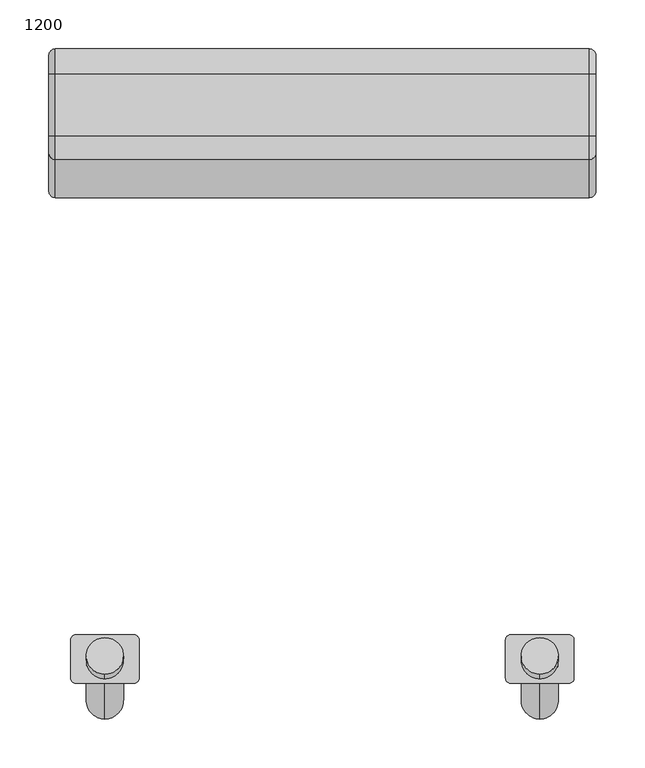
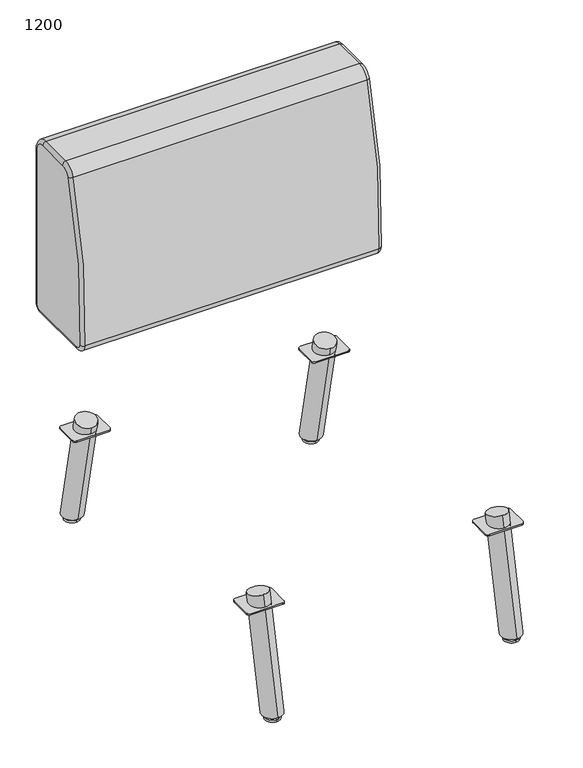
"""IFC4 building model written with IfcOpenShell, lengths in millimetres: furniture geometry, Laguna-Modular-Straight-ERG : 1200."""

import ifcopenshell
import ifcopenshell.guid

model = None  # the IFC model being written
_history = None  # IfcOwnerHistory: only IFC2X3 demands one
_inside = {}  # id of a spatial element -> (the spatial element, [elements in it])
_under = {}  # id of a project, library or spatial element -> (it, [spatial elements below it])
_declared = {}  # id of a project -> (the project, [libraries it declares])
_typed = {}  # id of a type object -> (the type object, [elements of that type])
_made_of = {}  # id of a material, layer set ... -> (it, [elements and type objects made of it])


def new_model(schema):
    """Start an empty IFC model of exactly this schema.

    Asked for "IFC4X3", IfcOpenShell would pick the latest addendum, in which some entities
    have other attributes; the version numbers below select the first issue.
    IFC2X3 requires an IfcOwnerHistory on every rooted entity: one is made here for all.
    """
    global model, _history
    if schema == "IFC4X3":
        model = ifcopenshell.file(schema_version=(4, 3, 0, 0))
    else:
        model = ifcopenshell.file(schema=schema)
    _inside.clear()
    _under.clear()
    _declared.clear()
    _typed.clear()
    _made_of.clear()
    _history = None
    if model.schema == "IFC2X3":
        org = make("IfcOrganization", Name="unknown")
        user = make(
            "IfcPersonAndOrganization",
            ThePerson=make("IfcPerson", FamilyName="unknown"),
            TheOrganization=org,
        )
        app = make(
            "IfcApplication",
            ApplicationDeveloper=org,
            Version="unknown",
            ApplicationFullName="unknown",
            ApplicationIdentifier="unknown",
        )
        _history = make(
            "IfcOwnerHistory",
            OwningUser=user,
            OwningApplication=app,
            ChangeAction="ADDED",
            CreationDate=0,
        )
    return model


def make(cls, **values):
    """One entity of the class cls with the attributes given. An attribute that is None is left unset."""
    return model.create_entity(
        cls, **{name: value for name, value in values.items() if value is not None}
    )


def rooted(cls, **values):
    """An entity with a GlobalId (a new one), such as an element, a storey or a relation."""
    return make(cls, GlobalId=ifcopenshell.guid.new(), OwnerHistory=_history, **values)


def si_unit(unit_type, name, prefix=None):
    """IfcSIUnit, for example si_unit("LENGTHUNIT", "METRE", prefix="MILLI")."""
    return make("IfcSIUnit", UnitType=unit_type, Prefix=prefix, Name=name)


def assignment(units):
    """IfcUnitAssignment: the units of a project."""
    return None if units is None else make("IfcUnitAssignment", Units=units)


def point(xyz):
    """IfcCartesianPoint."""
    return None if xyz is None else make("IfcCartesianPoint", Coordinates=xyz)


def direction(xyz):
    """IfcDirection."""
    return None if xyz is None else make("IfcDirection", DirectionRatios=xyz)


def frame(location, z_axis=None, x_axis=None):
    """IfcAxis2Placement3D, a coordinate frame: its origin and axes. An axis left out is left unset."""
    return make(
        "IfcAxis2Placement3D",
        Location=point(location),
        Axis=direction(z_axis),
        RefDirection=direction(x_axis),
    )


def frame_2d(location, x_axis=None):
    """IfcAxis2Placement2D, a coordinate frame in the plane: its origin and x axis."""
    return make(
        "IfcAxis2Placement2D", Location=point(location), RefDirection=direction(x_axis)
    )


def origin():
    """The frame at (0, 0, 0) with its axes left unset."""
    return frame((0.0, 0.0, 0.0))


def place(relative_to, where):
    """IfcLocalPlacement: puts the frame where relative to a parent placement (None: the world)."""
    return make(
        "IfcLocalPlacement", PlacementRelTo=relative_to, RelativePlacement=where
    )


def context(
    kind, dimensions, precision=None, world=None, true_north=None, identifier=None
):
    """IfcGeometricRepresentationContext, for example the 3D "Model" context."""
    return make(
        "IfcGeometricRepresentationContext",
        ContextIdentifier=identifier,
        ContextType=kind,
        CoordinateSpaceDimension=dimensions,
        Precision=precision,
        WorldCoordinateSystem=world,
        TrueNorth=true_north,
    )


def project(units=None, contexts=None):
    """IfcProject with its units and contexts."""
    return rooted(
        "IfcProject",
        Name="project",
        RepresentationContexts=contexts,
        UnitsInContext=assignment(units),
    )


def spatial(cls, under=None, at=None, **own):
    """A site, building, storey or space (cls), placed at a placement, below another one or the project."""
    s = rooted(cls, ObjectPlacement=at, **own)
    if under is not None:
        _under.setdefault(under.id(), (under, []))[1].append(s)
    return s


def polyline(points):
    """IfcPolyline through the points."""
    return make("IfcPolyline", Points=[point(p) for p in points])


def circle_curve(where, radius):
    """IfcCircle in the frame where."""
    return make("IfcCircle", Position=where, Radius=radius)


def ellipse_curve(where, semi_axis1, semi_axis2):
    """IfcEllipse in the frame where."""
    return make(
        "IfcEllipse", Position=where, SemiAxis1=semi_axis1, SemiAxis2=semi_axis2
    )


def trimmed(basis, trim1, trim2, sense, master):
    """IfcTrimmedCurve: the piece of a basis curve between two trims."""
    return make(
        "IfcTrimmedCurve",
        BasisCurve=basis,
        Trim1=trim1,
        Trim2=trim2,
        SenseAgreement=sense,
        MasterRepresentation=master,
    )


def segment(curve, same_sense, transition):
    """IfcCompositeCurveSegment."""
    return make(
        "IfcCompositeCurveSegment",
        Transition=transition,
        SameSense=same_sense,
        ParentCurve=curve,
    )


def composite_curve(segments, self_intersect=None):
    """IfcCompositeCurve: segments joined end to end."""
    return make("IfcCompositeCurve", Segments=segments, SelfIntersect=self_intersect)


def outline(outer, holes=None, kind="AREA"):
    """IfcArbitraryClosedProfileDef: a profile drawn as a closed curve; with holes, ...WithVoids."""
    if holes is None:
        return make("IfcArbitraryClosedProfileDef", ProfileType=kind, OuterCurve=outer)
    return make(
        "IfcArbitraryProfileDefWithVoids",
        ProfileType=kind,
        OuterCurve=outer,
        InnerCurves=holes,
    )


def extrude(swept, where, along, depth):
    """IfcExtrudedAreaSolid: the profile swept, set in the frame where, extruded along a direction by depth."""
    return make(
        "IfcExtrudedAreaSolid",
        SweptArea=swept,
        Position=where,
        ExtrudedDirection=direction(along),
        Depth=depth,
    )


def shape(context_of_items, identifier, shape_type, items):
    """IfcShapeRepresentation: the items that make up one representation, for example the "Body"."""
    return make(
        "IfcShapeRepresentation",
        ContextOfItems=context_of_items,
        RepresentationIdentifier=identifier,
        RepresentationType=shape_type,
        Items=items,
    )


def source(mapping_origin, context_of_items, identifier, shape_type, items):
    """IfcRepresentationMap: a shape defined once, which mapped items show again and again."""
    return make(
        "IfcRepresentationMap",
        MappingOrigin=mapping_origin,
        MappedRepresentation=shape(context_of_items, identifier, shape_type, items),
    )


def transform(
    local_origin,
    x_axis=None,
    y_axis=None,
    z_axis=None,
    scale=None,
    scale2=None,
    scale3=None,
    uniform=True,
):
    """IfcCartesianTransformationOperator3D, or its non-uniform kind. x_axis, y_axis, z_axis: its Axis1, 2, 3."""
    if uniform:
        return make(
            "IfcCartesianTransformationOperator3D",
            Axis1=direction(x_axis),
            Axis2=direction(y_axis),
            LocalOrigin=point(local_origin),
            Scale=scale,
            Axis3=direction(z_axis),
        )
    return make(
        "IfcCartesianTransformationOperator3DnonUniform",
        Axis1=direction(x_axis),
        Axis2=direction(y_axis),
        LocalOrigin=point(local_origin),
        Scale=scale,
        Axis3=direction(z_axis),
        Scale2=scale2,
        Scale3=scale3,
    )


def mapped(mapping_source, mapping_target):
    """IfcMappedItem: shows the shape of a source again, moved by a transform."""
    return make(
        "IfcMappedItem", MappingSource=mapping_source, MappingTarget=mapping_target
    )


def made_of(thing, what):
    """Note that an element or type object is made of a material, layer set ...; save() writes the relation."""
    if what is not None:
        _made_of.setdefault(what.id(), (what, []))[1].append(thing)
    return thing


def element(
    cls,
    number,
    at=None,
    inside=None,
    cuts=None,
    type_object=None,
    material=None,
    context=None,
    identifier="Body",
    shape_type=None,
    held_by="IfcProductDefinitionShape",
    body=None,
    shapes=None,
    **own,
):
    """One element of the class cls, such as IfcWall. Its Tag is "e" and its number.

    at: its placement. inside: the storey or other place that contains it. cuts: it is an
    opening in that element (IfcRelVoidsElement). A single representation is given by context,
    identifier, shape_type and body (its items); several are given by shapes. held_by: the class
    of the entity that holds the representations. save() writes the other relations.
    """
    e = rooted(cls, Tag="e%d" % number, ObjectPlacement=at, **own)
    if body is not None:
        shapes = [shape(context, identifier, shape_type, body)]
    if shapes is not None:
        e.Representation = make(held_by, Representations=shapes)
    if inside is not None:
        _inside.setdefault(inside.id(), (inside, []))[1].append(e)
    if cuts is not None:
        rooted(
            "IfcRelVoidsElement", RelatingBuildingElement=cuts, RelatedOpeningElement=e
        )
    if type_object is not None:
        _typed.setdefault(type_object.id(), (type_object, []))[1].append(e)
    return made_of(e, material)


def aggregate(whole, parts):
    """IfcRelAggregates: a whole, such as a stair, and the parts it consists of."""
    return rooted("IfcRelAggregates", RelatingObject=whole, RelatedObjects=parts)


def save(model, path):
    """Write the relations noted so far, then the file.

    IfcRelAggregates (storeys below a building ...), IfcRelContainedInSpatialStructure (elements
    in a storey), IfcRelDefinesByType, IfcRelAssociatesMaterial and IfcRelDeclares: one each for
    every whole, place, type object, material and project.
    """
    for whole, parts in _under.values():
        aggregate(whole, parts)
    for where, things in _inside.values():
        rooted(
            "IfcRelContainedInSpatialStructure",
            RelatedElements=things,
            RelatingStructure=where,
        )
    for kind, things in _typed.values():
        rooted("IfcRelDefinesByType", RelatedObjects=things, RelatingType=kind)
    for what, things in _made_of.values():
        rooted("IfcRelAssociatesMaterial", RelatedObjects=things, RelatingMaterial=what)
    for by, libraries in _declared.values():
        rooted("IfcRelDeclares", RelatingContext=by, RelatedDefinitions=libraries)
    model.write(path)


def plane_surface(at):
    """IfcPlane: the flat surface through the origin of the frame at, square to its z axis."""
    return make("IfcPlane", Position=at)


def cylinder_surface(at, radius):
    """IfcCylindricalSurface: all points at the distance radius from the z axis of the frame at."""
    return make("IfcCylindricalSurface", Position=at, Radius=radius)


def revolved_surface(curve, axis_point, axis_direction):
    """IfcSurfaceOfRevolution: the curve turned about the line through axis_point along axis_direction."""
    return make(
        "IfcSurfaceOfRevolution",
        SweptCurve=make("IfcArbitraryOpenProfileDef", ProfileType="CURVE", Curve=curve),
        AxisPosition=make("IfcAxis1Placement", Location=point(axis_point), Axis=direction(axis_direction)),
    )


def advanced_brep(points, edges, surfaces, faces):
    """IfcAdvancedBrep: a solid bounded by faces that lie on surfaces and meet in shared edges.

    An edge is (start, end): straight between two places in points (the first is 0);
    or (start, end, curve); or (start, end, curve, False) where it runs against its curve.
    A face is (place in surfaces, loops), or (place, loops, False) where it looks against
    its surface's normal. A loop lists edges by number (the first is 1), with a minus sign
    where the edge is run from its end to its start. The first loop is the outer one.
    """
    corners = [point(p) for p in points]
    vertices = [make("IfcVertexPoint", VertexGeometry=c) for c in corners]
    made = []
    for start, end, *more in edges:
        made.append(
            make(
                "IfcEdgeCurve",
                EdgeStart=vertices[start],
                EdgeEnd=vertices[end],
                EdgeGeometry=more[0] if more else make("IfcPolyline", Points=[corners[start], corners[end]]),
                SameSense=more[1] if len(more) > 1 else True,
            )
        )
    hull = []
    for where, loops, *sense in faces:
        bounds = []
        for j, loop in enumerate(loops):
            ring = [make("IfcOrientedEdge", EdgeElement=made[abs(k) - 1], Orientation=k > 0) for k in loop]
            bounds.append(
                make(
                    "IfcFaceOuterBound" if j == 0 else "IfcFaceBound",
                    Bound=make("IfcEdgeLoop", EdgeList=ring),
                    Orientation=True,
                )
            )
        hull.append(make("IfcAdvancedFace", Bounds=bounds, FaceSurface=surfaces[where], SameSense=sense[0] if sense else True))
    return make("IfcAdvancedBrep", Outer=make("IfcClosedShell", CfsFaces=hull))


def furniture_1200_4850fa3a(model_context):
    return source(origin(), model_context, "Body", "SolidModel", [
        advanced_brep(
        [(-4161.0921763, 1186.8836653, 224.8295715), (-4161.0921763, 1149.6162417, 216.9081361), (-4161.0921763, 1193.5619147, 10.16), (-4161.0921763, 1232.5130913, 10.16)],
        [
            (0, 1, circle_curve(frame((-4161.0921763, 1168.2499535, 220.8688538), z_axis=(0.0, -0.20791169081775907, 0.9781476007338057), x_axis=(0.0, -0.9781476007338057, -0.20791169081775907)), 19.05)),
            (1, 0, circle_curve(frame((-4161.0921763, 1168.2499535, 220.8688538), z_axis=(0.0, -0.20791169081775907, 0.9781476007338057), x_axis=(0.0, -0.9781476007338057, -0.20791169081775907)), 19.05)),
            (1, 2),
            (2, 3, ellipse_curve(frame((-4161.0921763, 1213.037503, 10.16), z_axis=(0.0, 0.0, 1.0), x_axis=(0.0, -1.0, 0.0)), 19.4755883, 19.05)),
            (3, 0),
            (3, 2, ellipse_curve(frame((-4161.0921763, 1213.037503, 10.16), z_axis=(0.0, 0.0, 1.0), x_axis=(0.0, -1.0, 0.0)), 19.4755883, 19.05)),
        ],
        [
            plane_surface(frame((-4161.0921763, 1168.2499535, 220.8688538), z_axis=(0.0, -0.20791169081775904, 0.9781476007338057), x_axis=(1.0, 0.0, 0.0))),
            cylinder_surface(frame((-4161.0921763, 1168.2499535, 220.8688538), z_axis=(0.0, -0.20791169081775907, 0.9781476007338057), x_axis=(0.0, -0.9781476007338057, -0.20791169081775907)), 19.05),
            plane_surface(frame((-4192.479084, 1280.9022773, 10.16), z_axis=(0.0, 0.0, -1.0), x_axis=(1.0, 0.0, 0.0))),
        ],
        [
            (0, [[1, 2]]),
            (1, [[3, 4, 5, -2]]),
            (1, [[-5, 6, -3, -1]]),
            (2, [[-6, -4]]),
        ],
    ),
        advanced_brep(
        [(-4605.5924306, 1186.8836653, 224.8295715), (-4605.5924306, 1149.6162417, 216.9081361), (-4605.5924306, 1193.5619147, 10.16), (-4605.5924306, 1232.5130913, 10.16)],
        [
            (0, 1, circle_curve(frame((-4605.5924306, 1168.2499535, 220.8688538), z_axis=(0.0, -0.20791169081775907, 0.9781476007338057), x_axis=(0.0, -0.9781476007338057, -0.20791169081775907)), 19.05)),
            (1, 0, circle_curve(frame((-4605.5924306, 1168.2499535, 220.8688538), z_axis=(0.0, -0.20791169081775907, 0.9781476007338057), x_axis=(0.0, -0.9781476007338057, -0.20791169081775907)), 19.05)),
            (1, 2),
            (2, 3, ellipse_curve(frame((-4605.5924306, 1213.037503, 10.16), z_axis=(0.0, 0.0, 1.0), x_axis=(0.0, -1.0, 0.0)), 19.4755883, 19.05)),
            (3, 0),
            (3, 2, ellipse_curve(frame((-4605.5924306, 1213.037503, 10.16), z_axis=(0.0, 0.0, 1.0), x_axis=(0.0, -1.0, 0.0)), 19.4755883, 19.05)),
        ],
        [
            plane_surface(frame((-4605.5924306, 1168.2499535, 220.8688538), z_axis=(0.0, -0.20791169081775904, 0.9781476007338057), x_axis=(1.0, 0.0, 0.0))),
            cylinder_surface(frame((-4605.5924306, 1168.2499535, 220.8688538), z_axis=(0.0, -0.20791169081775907, 0.9781476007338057), x_axis=(0.0, -0.9781476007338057, -0.20791169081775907)), 19.05),
            plane_surface(frame((-4636.9793383, 1280.9022773, 10.16), z_axis=(0.0, 0.0, -1.0), x_axis=(1.0, 0.0, 0.0))),
        ],
        [
            (0, [[1, 2]]),
            (1, [[3, 4, 5, -2]]),
            (1, [[-5, 6, -3, -1]]),
            (2, [[-6, -4]]),
        ],
    ),
        advanced_brep(
        [(-4161.0921763, 595.628035, 224.8295715), (-4161.0921763, 632.8954586, 216.9081361), (-4161.0921763, 549.998609, 10.16), (-4161.0921763, 588.9497857, 10.16)],
        [
            (0, 1, circle_curve(frame((-4161.0921763, 614.2617468, 220.8688538), z_axis=(0.0, 0.20791169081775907, 0.9781476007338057), x_axis=(0.0, 0.9781476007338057, -0.20791169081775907)), 19.05)),
            (1, 0, circle_curve(frame((-4161.0921763, 614.2617468, 220.8688538), z_axis=(0.0, 0.20791169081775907, 0.9781476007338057), x_axis=(0.0, 0.9781476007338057, -0.20791169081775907)), 19.05)),
            (0, 2),
            (2, 3, ellipse_curve(frame((-4161.0921763, 569.4741973, 10.16), z_axis=(0.0, 0.0, 1.0), x_axis=(0.0, 1.0, 0.0)), 19.4755883, 19.05)),
            (3, 1),
            (3, 2, ellipse_curve(frame((-4161.0921763, 569.4741973, 10.16), z_axis=(0.0, 0.0, 1.0), x_axis=(0.0, 1.0, 0.0)), 19.4755883, 19.05)),
        ],
        [
            plane_surface(frame((-4161.0921763, 614.2617468, 220.8688538), z_axis=(0.0, 0.20791169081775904, 0.9781476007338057), x_axis=(1.0, 0.0, 0.0))),
            cylinder_surface(frame((-4161.0921763, 614.2617468, 220.8688538), z_axis=(0.0, 0.20791169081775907, 0.9781476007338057), x_axis=(0.0, 0.9781476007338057, -0.20791169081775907)), 19.05),
            plane_surface(frame((-4192.479084, 501.6094231, 10.16), z_axis=(0.0, 0.0, -1.0), x_axis=(1.0, 0.0, 0.0))),
        ],
        [
            (0, [[1, 2]]),
            (1, [[-1, 3, 4, 5]]),
            (1, [[-2, -5, 6, -3]]),
            (2, [[-4, -6]]),
        ],
    ),
        advanced_brep(
        [(-4605.5924306, 595.628035, 224.8295715), (-4605.5924306, 632.8954586, 216.9081361), (-4605.5924306, 549.998609, 10.16), (-4605.5924306, 588.9497857, 10.16)],
        [
            (0, 1, circle_curve(frame((-4605.5924306, 614.2617468, 220.8688538), z_axis=(0.0, 0.20791169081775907, 0.9781476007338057), x_axis=(0.0, 0.9781476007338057, -0.20791169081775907)), 19.05)),
            (1, 0, circle_curve(frame((-4605.5924306, 614.2617468, 220.8688538), z_axis=(0.0, 0.20791169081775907, 0.9781476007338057), x_axis=(0.0, 0.9781476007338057, -0.20791169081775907)), 19.05)),
            (0, 2),
            (2, 3, ellipse_curve(frame((-4605.5924306, 569.4741973, 10.16), z_axis=(0.0, 0.0, 1.0), x_axis=(0.0, 1.0, 0.0)), 19.4755883, 19.05)),
            (3, 1),
            (3, 2, ellipse_curve(frame((-4605.5924306, 569.4741973, 10.16), z_axis=(0.0, 0.0, 1.0), x_axis=(0.0, 1.0, 0.0)), 19.4755883, 19.05)),
        ],
        [
            plane_surface(frame((-4605.5924306, 614.2617468, 220.8688538), z_axis=(0.0, 0.20791169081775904, 0.9781476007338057), x_axis=(1.0, 0.0, 0.0))),
            cylinder_surface(frame((-4605.5924306, 614.2617468, 220.8688538), z_axis=(0.0, 0.20791169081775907, 0.9781476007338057), x_axis=(0.0, 0.9781476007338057, -0.20791169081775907)), 19.05),
            plane_surface(frame((-4636.9793383, 501.6094231, 10.16), z_axis=(0.0, 0.0, -1.0), x_axis=(1.0, 0.0, 0.0))),
        ],
        [
            (0, [[1, 2]]),
            (1, [[-1, 3, 4, 5]]),
            (1, [[-2, -5, 6, -3]]),
            (2, [[-4, -6]]),
        ],
    ),
        extrude(outline(composite_curve([segment(polyline([(-4575.7474306, 586.4558502), (-4635.4374306, 586.4558502)]), True, "CONTINUOUS"), segment(trimmed(circle_curve(frame_2d((-4635.4374306, 591.5358502)), 5.08), [point((-4635.4374306, 586.4558502))], [point((-4640.5174306, 591.5358502))], False, "CARTESIAN"), True, "CONTINUOUS"), segment(polyline([(-4640.5174306, 591.5358502), (-4640.5174306, 630.9058502)]), True, "CONTINUOUS"), segment(trimmed(circle_curve(frame_2d((-4635.4374306, 630.9058502)), 5.08), [point((-4640.5174306, 630.9058502))], [point((-4635.4374306, 635.9858502))], False, "CARTESIAN"), True, "CONTINUOUS"), segment(polyline([(-4635.4374306, 635.9858502), (-4575.7474306, 635.9858502)]), True, "CONTINUOUS"), segment(trimmed(circle_curve(frame_2d((-4575.7474306, 630.9058502)), 5.08), [point((-4575.7474306, 635.9858502))], [point((-4570.6674306, 630.9058502))], False, "CARTESIAN"), True, "CONTINUOUS"), segment(polyline([(-4570.6674306, 630.9058502), (-4570.6674306, 591.5358502)]), True, "CONTINUOUS"), segment(trimmed(circle_curve(frame_2d((-4575.7474306, 591.5358502)), 5.08), [point((-4570.6674306, 591.5358502))], [point((-4575.7474306, 586.4558502))], False, "CARTESIAN"), True, "CONTINUOUS")], self_intersect=False)), frame((0.0, 0.0, 200.66), z_axis=(0.0, 0.0, 1.0), x_axis=(1.0, 0.0, 0.0)), (0.0, 0.0, 1.0), 2.54),
        extrude(outline(composite_curve([segment(trimmed(circle_curve(frame_2d((-4575.7474306, 1190.9758502)), 5.08), [point((-4575.7474306, 1196.0558502))], [point((-4570.6674306, 1190.9758502))], False, "CARTESIAN"), True, "CONTINUOUS"), segment(polyline([(-4570.6674306, 1190.9758502), (-4570.6674306, 1151.6058502)]), True, "CONTINUOUS"), segment(trimmed(circle_curve(frame_2d((-4575.7474306, 1151.6058502)), 5.08), [point((-4570.6674306, 1151.6058502))], [point((-4575.7474306, 1146.5258502))], False, "CARTESIAN"), True, "CONTINUOUS"), segment(polyline([(-4575.7474306, 1146.5258502), (-4635.4374306, 1146.5258502)]), True, "CONTINUOUS"), segment(trimmed(circle_curve(frame_2d((-4635.4374306, 1151.6058502)), 5.08), [point((-4635.4374306, 1146.5258502))], [point((-4640.5174306, 1151.6058502))], False, "CARTESIAN"), True, "CONTINUOUS"), segment(polyline([(-4640.5174306, 1151.6058502), (-4640.5174306, 1190.9758502)]), True, "CONTINUOUS"), segment(trimmed(circle_curve(frame_2d((-4635.4374306, 1190.9758502)), 5.08), [point((-4640.5174306, 1190.9758502))], [point((-4635.4374306, 1196.0558502))], False, "CARTESIAN"), True, "CONTINUOUS"), segment(polyline([(-4635.4374306, 1196.0558502), (-4575.7474306, 1196.0558502)]), True, "CONTINUOUS")], self_intersect=False)), frame((0.0, 0.0, 200.66), z_axis=(0.0, 0.0, 1.0), x_axis=(1.0, 0.0, 0.0)), (0.0, 0.0, 1.0), 2.54),
        extrude(outline(composite_curve([segment(trimmed(circle_curve(frame_2d((-4190.936922, 591.5358502)), 5.08), [point((-4190.936922, 586.4558502))], [point((-4196.016922, 591.5358502))], False, "CARTESIAN"), True, "CONTINUOUS"), segment(polyline([(-4196.016922, 591.5358502), (-4196.016922, 630.9058502)]), True, "CONTINUOUS"), segment(trimmed(circle_curve(frame_2d((-4190.936922, 630.9058502)), 5.08), [point((-4196.016922, 630.9058502))], [point((-4190.936922, 635.9858502))], False, "CARTESIAN"), True, "CONTINUOUS"), segment(polyline([(-4190.936922, 635.9858502), (-4131.246922, 635.9858502)]), True, "CONTINUOUS"), segment(trimmed(circle_curve(frame_2d((-4131.246922, 630.9058502)), 5.08), [point((-4131.246922, 635.9858502))], [point((-4126.166922, 630.9058502))], False, "CARTESIAN"), True, "CONTINUOUS"), segment(polyline([(-4126.166922, 630.9058502), (-4126.166922, 591.5358502)]), True, "CONTINUOUS"), segment(trimmed(circle_curve(frame_2d((-4131.246922, 591.5358502)), 5.08), [point((-4126.166922, 591.5358502))], [point((-4131.246922, 586.4558502))], False, "CARTESIAN"), True, "CONTINUOUS"), segment(polyline([(-4131.246922, 586.4558502), (-4190.936922, 586.4558502)]), True, "CONTINUOUS")], self_intersect=False)), frame((0.0, 0.0, 200.66), z_axis=(0.0, 0.0, 1.0), x_axis=(1.0, 0.0, 0.0)), (0.0, 0.0, 1.0), 2.54),
        extrude(outline(composite_curve([segment(polyline([(-4190.936922, 1196.0558502), (-4131.246922, 1196.0558502)]), True, "CONTINUOUS"), segment(trimmed(circle_curve(frame_2d((-4131.246922, 1190.9758502)), 5.08), [point((-4131.246922, 1196.0558502))], [point((-4126.166922, 1190.9758502))], False, "CARTESIAN"), True, "CONTINUOUS"), segment(polyline([(-4126.166922, 1190.9758502), (-4126.166922, 1151.6058502)]), True, "CONTINUOUS"), segment(trimmed(circle_curve(frame_2d((-4131.246922, 1151.6058502)), 5.08), [point((-4126.166922, 1151.6058502))], [point((-4131.246922, 1146.5258502))], False, "CARTESIAN"), True, "CONTINUOUS"), segment(polyline([(-4131.246922, 1146.5258502), (-4190.936922, 1146.5258502)]), True, "CONTINUOUS"), segment(trimmed(circle_curve(frame_2d((-4190.936922, 1151.6058502)), 5.08), [point((-4190.936922, 1146.5258502))], [point((-4196.016922, 1151.6058502))], False, "CARTESIAN"), True, "CONTINUOUS"), segment(polyline([(-4196.016922, 1151.6058502), (-4196.016922, 1190.9758502)]), True, "CONTINUOUS"), segment(trimmed(circle_curve(frame_2d((-4190.936922, 1190.9758502)), 5.08), [point((-4196.016922, 1190.9758502))], [point((-4190.936922, 1196.0558502))], False, "CARTESIAN"), True, "CONTINUOUS")], self_intersect=False)), frame((0.0, 0.0, 200.66), z_axis=(0.0, 0.0, 1.0), x_axis=(1.0, 0.0, 0.0)), (0.0, 0.0, 1.0), 2.54),
        advanced_brep(
        [(-4161.0921763, 1218.5428448, 10.16), (-4161.0921763, 1210.0567485, 10.16), (-4161.0921763, 1214.2997967, 10.16), (-4161.0921763, 1214.2997967, 0.0), (-4161.0921763, 1200.2214432, 0.0), (-4161.0921763, 1228.3781501, 0.0), (-4161.0921763, 1200.2214432, 3.9615026), (-4161.0921763, 1228.3781501, 3.9615026), (-4161.0921763, 1210.0567485, 3.9615026), (-4161.0921763, 1218.5428448, 3.9615026)],
        [
            (0, 1, circle_curve(frame((-4161.0921763, 1214.2997967, 10.16), z_axis=(0.0, 0.0, 1.0), x_axis=(0.0, -1.0, 0.0)), 4.2430482)),
            (1, 2),
            (2, 0),
            (1, 0, circle_curve(frame((-4161.0921763, 1214.2997967, 10.16), z_axis=(0.0, 0.0, 1.0), x_axis=(0.0, -1.0, 0.0)), 4.2430482)),
            (3, 4),
            (4, 5, circle_curve(frame((-4161.0921763, 1214.2997967, 0.0), z_axis=(0.0, 0.0, -1.0), x_axis=(0.0, -1.0, 0.0)), 14.0783534)),
            (5, 3),
            (5, 4, circle_curve(frame((-4161.0921763, 1214.2997967, 0.0), z_axis=(0.0, 0.0, -1.0), x_axis=(0.0, -1.0, 0.0)), 14.0783534)),
            (4, 6),
            (6, 7, circle_curve(frame((-4161.0921763, 1214.2997967, 3.9615026), z_axis=(0.0, 0.0, -1.0), x_axis=(0.0, -1.0, 0.0)), 14.0783534)),
            (7, 5),
            (7, 6, circle_curve(frame((-4161.0921763, 1214.2997967, 3.9615026), z_axis=(0.0, 0.0, -1.0), x_axis=(0.0, -1.0, 0.0)), 14.0783534)),
            (6, 8),
            (8, 9, circle_curve(frame((-4161.0921763, 1214.2997967, 3.9615026), z_axis=(0.0, 0.0, -1.0), x_axis=(0.0, -1.0, 0.0)), 4.2430482)),
            (9, 7),
            (9, 8, circle_curve(frame((-4161.0921763, 1214.2997967, 3.9615026), z_axis=(0.0, 0.0, -1.0), x_axis=(0.0, -1.0, 0.0)), 4.2430482)),
            (8, 1),
            (0, 9),
        ],
        [
            plane_surface(frame((-4161.0921763, 1214.2997967, 10.16), z_axis=(0.0, 0.0, 1.0), x_axis=(0.0, -1.0, 0.0))),
            plane_surface(frame((-4161.0921763, 1214.2997967, 0.0), z_axis=(0.0, 0.0, -1.0), x_axis=(0.0, -1.0, 0.0))),
            cylinder_surface(frame((-4161.0921763, 1214.2997967, 10.16), z_axis=(0.0, 0.0, -1.0), x_axis=(0.0, -1.0, 0.0)), 14.0783534),
            plane_surface(frame((-4161.0921763, 1214.2997967, 3.9615026), z_axis=(0.0, 0.0, 1.0), x_axis=(0.0, -1.0, 0.0))),
            cylinder_surface(frame((-4161.0921763, 1214.2997967, 10.16), z_axis=(0.0, 0.0, -1.0), x_axis=(0.0, -1.0, 0.0)), 4.2430482),
        ],
        [
            (0, [[1, 2, 3]]),
            (0, [[4, -3, -2]]),
            (1, [[5, 6, 7]]),
            (1, [[-7, 8, -5]]),
            (2, [[-6, 9, 10, 11]]),
            (2, [[-8, -11, 12, -9]]),
            (3, [[-10, 13, 14, 15]]),
            (3, [[-12, -15, 16, -13]]),
            (4, [[-14, 17, -1, 18]]),
            (4, [[-16, -18, -4, -17]]),
        ],
    ),
        advanced_brep(
        [(-4605.5924306, 1218.5428448, 10.16), (-4605.5924306, 1210.0567485, 10.16), (-4605.5924306, 1214.2997967, 10.16), (-4605.5924306, 1214.2997967, 0.0), (-4605.5924306, 1200.2214432, 0.0), (-4605.5924306, 1228.3781501, 0.0), (-4605.5924306, 1200.2214432, 3.9615026), (-4605.5924306, 1228.3781501, 3.9615026), (-4605.5924306, 1210.0567485, 3.9615026), (-4605.5924306, 1218.5428448, 3.9615026)],
        [
            (0, 1, circle_curve(frame((-4605.5924306, 1214.2997967, 10.16), z_axis=(0.0, 0.0, 1.0), x_axis=(0.0, -1.0, 0.0)), 4.2430482)),
            (1, 2),
            (2, 0),
            (1, 0, circle_curve(frame((-4605.5924306, 1214.2997967, 10.16), z_axis=(0.0, 0.0, 1.0), x_axis=(0.0, -1.0, 0.0)), 4.2430482)),
            (3, 4),
            (4, 5, circle_curve(frame((-4605.5924306, 1214.2997967, 0.0), z_axis=(0.0, 0.0, -1.0), x_axis=(0.0, -1.0, 0.0)), 14.0783534)),
            (5, 3),
            (5, 4, circle_curve(frame((-4605.5924306, 1214.2997967, 0.0), z_axis=(0.0, 0.0, -1.0), x_axis=(0.0, -1.0, 0.0)), 14.0783534)),
            (4, 6),
            (6, 7, circle_curve(frame((-4605.5924306, 1214.2997967, 3.9615026), z_axis=(0.0, 0.0, -1.0), x_axis=(0.0, -1.0, 0.0)), 14.0783534)),
            (7, 5),
            (7, 6, circle_curve(frame((-4605.5924306, 1214.2997967, 3.9615026), z_axis=(0.0, 0.0, -1.0), x_axis=(0.0, -1.0, 0.0)), 14.0783534)),
            (6, 8),
            (8, 9, circle_curve(frame((-4605.5924306, 1214.2997967, 3.9615026), z_axis=(0.0, 0.0, -1.0), x_axis=(0.0, -1.0, 0.0)), 4.2430482)),
            (9, 7),
            (9, 8, circle_curve(frame((-4605.5924306, 1214.2997967, 3.9615026), z_axis=(0.0, 0.0, -1.0), x_axis=(0.0, -1.0, 0.0)), 4.2430482)),
            (8, 1),
            (0, 9),
        ],
        [
            plane_surface(frame((-4605.5924306, 1214.2997967, 10.16), z_axis=(0.0, 0.0, 1.0), x_axis=(0.0, -1.0, 0.0))),
            plane_surface(frame((-4605.5924306, 1214.2997967, 0.0), z_axis=(0.0, 0.0, -1.0), x_axis=(0.0, -1.0, 0.0))),
            cylinder_surface(frame((-4605.5924306, 1214.2997967, 10.16), z_axis=(0.0, 0.0, -1.0), x_axis=(0.0, -1.0, 0.0)), 14.0783534),
            plane_surface(frame((-4605.5924306, 1214.2997967, 3.9615026), z_axis=(0.0, 0.0, 1.0), x_axis=(0.0, -1.0, 0.0))),
            cylinder_surface(frame((-4605.5924306, 1214.2997967, 10.16), z_axis=(0.0, 0.0, -1.0), x_axis=(0.0, -1.0, 0.0)), 4.2430482),
        ],
        [
            (0, [[1, 2, 3]]),
            (0, [[4, -3, -2]]),
            (1, [[5, 6, 7]]),
            (1, [[-7, 8, -5]]),
            (2, [[-6, 9, 10, 11]]),
            (2, [[-8, -11, 12, -9]]),
            (3, [[-10, 13, 14, 15]]),
            (3, [[-12, -15, 16, -13]]),
            (4, [[-14, 17, -1, 18]]),
            (4, [[-16, -18, -4, -17]]),
        ],
    ),
        advanced_brep(
        [(-4161.0921763, 568.2119037, 10.16), (-4161.0921763, 572.4549518, 10.16), (-4161.0921763, 563.9688555, 10.16), (-4161.0921763, 554.1335502, 0.0), (-4161.0921763, 582.2902571, 0.0), (-4161.0921763, 568.2119037, 0.0), (-4161.0921763, 554.1335502, 3.9615026), (-4161.0921763, 582.2902571, 3.9615026), (-4161.0921763, 563.9688555, 3.9615026), (-4161.0921763, 572.4549518, 3.9615026)],
        [
            (0, 1),
            (1, 2, circle_curve(frame((-4161.0921763, 568.2119037, 10.16), z_axis=(0.0, 0.0, 1.0), x_axis=(0.0, 1.0, 0.0)), 4.2430482)),
            (2, 0),
            (2, 1, circle_curve(frame((-4161.0921763, 568.2119037, 10.16), z_axis=(0.0, 0.0, 1.0), x_axis=(0.0, 1.0, 0.0)), 4.2430482)),
            (3, 4, circle_curve(frame((-4161.0921763, 568.2119037, 0.0), z_axis=(0.0, 0.0, -1.0), x_axis=(0.0, 1.0, 0.0)), 14.0783534)),
            (4, 5),
            (5, 3),
            (4, 3, circle_curve(frame((-4161.0921763, 568.2119037, 0.0), z_axis=(0.0, 0.0, -1.0), x_axis=(0.0, 1.0, 0.0)), 14.0783534)),
            (6, 7, circle_curve(frame((-4161.0921763, 568.2119037, 3.9615026), z_axis=(0.0, 0.0, -1.0), x_axis=(0.0, 1.0, 0.0)), 14.0783534)),
            (7, 4),
            (3, 6),
            (7, 6, circle_curve(frame((-4161.0921763, 568.2119037, 3.9615026), z_axis=(0.0, 0.0, -1.0), x_axis=(0.0, 1.0, 0.0)), 14.0783534)),
            (8, 9, circle_curve(frame((-4161.0921763, 568.2119037, 3.9615026), z_axis=(0.0, 0.0, -1.0), x_axis=(0.0, 1.0, 0.0)), 4.2430482)),
            (9, 7),
            (6, 8),
            (9, 8, circle_curve(frame((-4161.0921763, 568.2119037, 3.9615026), z_axis=(0.0, 0.0, -1.0), x_axis=(0.0, 1.0, 0.0)), 4.2430482)),
            (1, 9),
            (8, 2),
        ],
        [
            plane_surface(frame((-4161.0921763, 568.2119037, 10.16), z_axis=(0.0, 0.0, 1.0), x_axis=(0.0, 1.0, 0.0))),
            plane_surface(frame((-4161.0921763, 568.2119037, 0.0), z_axis=(0.0, 0.0, -1.0), x_axis=(0.0, 1.0, 0.0))),
            cylinder_surface(frame((-4161.0921763, 568.2119037, 10.16), z_axis=(0.0, 0.0, 1.0), x_axis=(0.0, 1.0, 0.0)), 14.0783534),
            plane_surface(frame((-4161.0921763, 568.2119037, 3.9615026), z_axis=(0.0, 0.0, 1.0), x_axis=(0.0, 1.0, 0.0))),
            cylinder_surface(frame((-4161.0921763, 568.2119037, 10.16), z_axis=(0.0, 0.0, 1.0), x_axis=(0.0, 1.0, 0.0)), 4.2430482),
        ],
        [
            (0, [[1, 2, 3]]),
            (0, [[-3, 4, -1]]),
            (1, [[5, 6, 7]]),
            (1, [[8, -7, -6]]),
            (2, [[9, 10, -5, 11]]),
            (2, [[12, -11, -8, -10]]),
            (3, [[13, 14, -9, 15]]),
            (3, [[16, -15, -12, -14]]),
            (4, [[-2, 17, -13, 18]]),
            (4, [[-4, -18, -16, -17]]),
        ],
    ),
        advanced_brep(
        [(-4605.5924306, 568.2119037, 10.16), (-4605.5924306, 572.4549518, 10.16), (-4605.5924306, 563.9688555, 10.16), (-4605.5924306, 554.1335502, 0.0), (-4605.5924306, 582.2902571, 0.0), (-4605.5924306, 568.2119037, 0.0), (-4605.5924306, 554.1335502, 3.9615026), (-4605.5924306, 582.2902571, 3.9615026), (-4605.5924306, 563.9688555, 3.9615026), (-4605.5924306, 572.4549518, 3.9615026)],
        [
            (0, 1),
            (1, 2, circle_curve(frame((-4605.5924306, 568.2119037, 10.16), z_axis=(0.0, 0.0, 1.0), x_axis=(0.0, 1.0, 0.0)), 4.2430482)),
            (2, 0),
            (2, 1, circle_curve(frame((-4605.5924306, 568.2119037, 10.16), z_axis=(0.0, 0.0, 1.0), x_axis=(0.0, 1.0, 0.0)), 4.2430482)),
            (3, 4, circle_curve(frame((-4605.5924306, 568.2119037, 0.0), z_axis=(0.0, 0.0, -1.0), x_axis=(0.0, 1.0, 0.0)), 14.0783534)),
            (4, 5),
            (5, 3),
            (4, 3, circle_curve(frame((-4605.5924306, 568.2119037, 0.0), z_axis=(0.0, 0.0, -1.0), x_axis=(0.0, 1.0, 0.0)), 14.0783534)),
            (6, 7, circle_curve(frame((-4605.5924306, 568.2119037, 3.9615026), z_axis=(0.0, 0.0, -1.0), x_axis=(0.0, 1.0, 0.0)), 14.0783534)),
            (7, 4),
            (3, 6),
            (7, 6, circle_curve(frame((-4605.5924306, 568.2119037, 3.9615026), z_axis=(0.0, 0.0, -1.0), x_axis=(0.0, 1.0, 0.0)), 14.0783534)),
            (8, 9, circle_curve(frame((-4605.5924306, 568.2119037, 3.9615026), z_axis=(0.0, 0.0, -1.0), x_axis=(0.0, 1.0, 0.0)), 4.2430482)),
            (9, 7),
            (6, 8),
            (9, 8, circle_curve(frame((-4605.5924306, 568.2119037, 3.9615026), z_axis=(0.0, 0.0, -1.0), x_axis=(0.0, 1.0, 0.0)), 4.2430482)),
            (1, 9),
            (8, 2),
        ],
        [
            plane_surface(frame((-4605.5924306, 568.2119037, 10.16), z_axis=(0.0, 0.0, 1.0), x_axis=(0.0, 1.0, 0.0))),
            plane_surface(frame((-4605.5924306, 568.2119037, 0.0), z_axis=(0.0, 0.0, -1.0), x_axis=(0.0, 1.0, 0.0))),
            cylinder_surface(frame((-4605.5924306, 568.2119037, 10.16), z_axis=(0.0, 0.0, 1.0), x_axis=(0.0, 1.0, 0.0)), 14.0783534),
            plane_surface(frame((-4605.5924306, 568.2119037, 3.9615026), z_axis=(0.0, 0.0, 1.0), x_axis=(0.0, 1.0, 0.0))),
            cylinder_surface(frame((-4605.5924306, 568.2119037, 10.16), z_axis=(0.0, 0.0, 1.0), x_axis=(0.0, 1.0, 0.0)), 4.2430482),
        ],
        [
            (0, [[1, 2, 3]]),
            (0, [[-3, 4, -1]]),
            (1, [[5, 6, 7]]),
            (1, [[8, -7, -6]]),
            (2, [[9, 10, -5, 11]]),
            (2, [[12, -11, -8, -10]]),
            (3, [[13, 14, -9, 15]]),
            (3, [[16, -15, -12, -14]]),
            (4, [[-2, 17, -13, 18]]),
            (4, [[-4, -18, -16, -17]]),
        ],
    ),
        advanced_brep(
        [(-4103.9421763, 1221.4558502, 425.45), (-4110.2921763, 1221.4558502, 419.1), (-4110.2921763, 1234.1558502, 431.8), (-4103.9421763, 1227.8058502, 431.8), (-4110.2921763, 1234.1558502, 736.6), (-4103.9421763, 1227.8058502, 736.6), (-4110.2921763, 1208.7558502, 762.0), (-4103.9421763, 1208.7558502, 755.65), (-4110.2921763, 1145.484373, 762.0), (-4103.9421763, 1145.484373, 755.65), (-4110.2921763, 1121.3089686, 744.3916508), (-4103.9421763, 1127.3528197, 742.4437381), (-4110.2921763, 1082.4654689, 435.9339217), (-4103.9421763, 1088.8035624, 436.3225994), (-4110.2921763, 1100.3633388, 419.1), (-4103.9421763, 1100.3633388, 425.45), (-4656.3921763, 1082.4654689, 435.9339217), (-4656.3921763, 1100.3633388, 419.1), (-4656.3921763, 1221.4558502, 419.1), (-4656.3921763, 1234.1558502, 431.8), (-4656.3921763, 1234.1558502, 736.6), (-4656.3921763, 1208.7558502, 762.0), (-4656.3921763, 1145.484373, 762.0), (-4656.3921763, 1121.3089686, 744.3916508), (-4662.7421763, 1227.8058502, 736.6), (-4662.7421763, 1208.7558502, 755.65), (-4662.7421763, 1145.484373, 755.65), (-4662.7421763, 1127.3528197, 742.4437381), (-4662.7421763, 1088.8035624, 436.3225994), (-4662.7421763, 1100.3633388, 425.45), (-4662.7421763, 1221.4558502, 425.45), (-4662.7421763, 1227.8058502, 431.8)],
        [
            (0, 1, circle_curve(frame((-4110.2921763, 1221.4558502, 425.45), z_axis=(0.0, 1.0, 0.0), x_axis=(0.0, 0.0, 1.0)), 6.35)),
            (1, 2, circle_curve(frame((-4110.2921763, 1221.4558502, 431.8), z_axis=(1.0, 0.0, 0.0), x_axis=(0.0, 0.0, -1.0)), 12.7)),
            (2, 3, circle_curve(frame((-4110.2921763, 1227.8058502, 431.8), z_axis=(0.0, 0.0, -1.0), x_axis=(0.0, -1.0, 0.0)), 6.35)),
            (3, 0, circle_curve(frame((-4103.9421763, 1221.4558502, 431.8), z_axis=(-1.0, 0.0, 0.0), x_axis=(0.0, 0.0, -1.0)), 6.35)),
            (2, 4),
            (4, 5, circle_curve(frame((-4110.2921763, 1227.8058502, 736.6), z_axis=(0.0, 0.0, -1.0), x_axis=(0.0, -1.0, 0.0)), 6.35)),
            (5, 3),
            (4, 6, circle_curve(frame((-4110.2921763, 1208.7558502, 736.6), z_axis=(1.0, 0.0, 0.0), x_axis=(0.0, 1.0, 0.0)), 25.4)),
            (6, 7, circle_curve(frame((-4110.2921763, 1208.7558502, 755.65), z_axis=(0.0, 1.0, 0.0), x_axis=(0.0, 0.0, -1.0)), 6.35)),
            (7, 5, circle_curve(frame((-4103.9421763, 1208.7558502, 736.6), z_axis=(-1.0, 0.0, 0.0), x_axis=(0.0, 1.0, 0.0)), 19.05)),
            (6, 8),
            (8, 9, circle_curve(frame((-4110.2921763, 1145.484373, 755.65), z_axis=(0.0, 1.0, 0.0), x_axis=(0.0, 0.0, -1.0)), 6.35)),
            (9, 7),
            (8, 10, circle_curve(frame((-4110.2921763, 1145.484373, 736.6), z_axis=(1.0, 0.0, 0.0), x_axis=(0.0, 0.0, 1.0)), 25.4)),
            (10, 11, circle_curve(frame((-4110.2921763, 1127.3528197, 742.4437381), z_axis=(0.0, 0.30675790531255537, 0.9517875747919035), x_axis=(0.0, 0.9517875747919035, -0.30675790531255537)), 6.35)),
            (11, 9, circle_curve(frame((-4103.9421763, 1145.484373, 736.6), z_axis=(-1.0, 0.0, 0.0), x_axis=(0.0, 0.0, 1.0)), 19.05)),
            (10, 12, circle_curve(frame((-4110.2921763, 1919.1691857, 487.2440105), z_axis=(1.0, 0.0, 0.0), x_axis=(0.0, -0.95178757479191, 0.30675790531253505)), 838.2755126)),
            (12, 13, circle_curve(frame((-4110.2921763, 1088.8035624, 436.3225994), z_axis=(0.0, -0.06120909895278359, 0.9981249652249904), x_axis=(0.0, 0.9981249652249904, 0.06120909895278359)), 6.35)),
            (13, 11, circle_curve(frame((-4103.9421763, 1919.1691857, 487.2440105), z_axis=(-1.0, 0.0, 0.0), x_axis=(0.0, -0.95178757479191, 0.30675790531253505)), 831.9255126)),
            (12, 14, circle_curve(frame((-4110.2921763, 1100.3633388, 437.0314921), z_axis=(1.0, 0.0, 0.0), x_axis=(0.0, -0.9981249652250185, -0.06120909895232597)), 17.9314921)),
            (14, 15, circle_curve(frame((-4110.2921763, 1100.3633388, 425.45), z_axis=(0.0, -1.0, 0.0), x_axis=(0.0, 0.0, 1.0)), 6.35)),
            (15, 13, circle_curve(frame((-4103.9421763, 1100.3633388, 437.0314921), z_axis=(-1.0, 0.0, 0.0), x_axis=(0.0, -0.9981249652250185, -0.06120909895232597)), 11.5814921)),
            (0, 15),
            (14, 1),
            (12, 16),
            (16, 17, circle_curve(frame((-4656.3921763, 1100.3633388, 437.0314921), z_axis=(1.0, 0.0, 0.0), x_axis=(0.0, 1.0, 0.0)), 17.9314921)),
            (17, 14),
            (17, 18),
            (18, 1),
            (18, 19, circle_curve(frame((-4656.3921763, 1221.4558502, 431.8), z_axis=(1.0, 0.0, 0.0), x_axis=(0.0, 1.0, 0.0)), 12.7)),
            (19, 2),
            (19, 20),
            (20, 4),
            (20, 21, circle_curve(frame((-4656.3921763, 1208.7558502, 736.6), z_axis=(1.0, 0.0, 0.0), x_axis=(0.0, 1.0, 0.0)), 25.4)),
            (21, 6),
            (21, 22),
            (22, 8),
            (22, 23, circle_curve(frame((-4656.3921763, 1145.484373, 736.6), z_axis=(1.0, 0.0, 0.0), x_axis=(0.0, 1.0, 0.0)), 25.4)),
            (23, 10),
            (23, 16, circle_curve(frame((-4656.3921763, 1919.1691857, 487.2440105), z_axis=(1.0, 0.0, 0.0), x_axis=(0.0, 1.0, 0.0)), 838.2755126)),
            (20, 24, circle_curve(frame((-4656.3921763, 1227.8058502, 736.6), z_axis=(0.0, 0.0, 1.0), x_axis=(0.0, -1.0, 0.0)), 6.35)),
            (24, 25, circle_curve(frame((-4662.7421763, 1208.7558502, 736.6), z_axis=(1.0, 0.0, 0.0), x_axis=(0.0, 1.0, 0.0)), 19.05)),
            (25, 21, circle_curve(frame((-4656.3921763, 1208.7558502, 755.65), z_axis=(0.0, 1.0, 0.0), x_axis=(0.0, 0.0, -1.0)), 6.35)),
            (25, 26),
            (26, 22, circle_curve(frame((-4656.3921763, 1145.484373, 755.65), z_axis=(0.0, 1.0, 0.0), x_axis=(0.0, 0.0, -1.0)), 6.35)),
            (26, 27, circle_curve(frame((-4662.7421763, 1145.484373, 736.6), z_axis=(1.0, 0.0, 0.0), x_axis=(0.0, 0.0, 1.0)), 19.05)),
            (27, 23, circle_curve(frame((-4656.3921763, 1127.3528197, 742.4437381), z_axis=(0.0, 0.3067579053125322, 0.9517875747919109), x_axis=(0.0, 0.9517875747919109, -0.3067579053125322)), 6.35)),
            (27, 28, circle_curve(frame((-4662.7421763, 1919.1691857, 487.2440105), z_axis=(1.0, 0.0, 0.0), x_axis=(0.0, -0.95178757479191, 0.30675790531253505)), 831.9255126)),
            (28, 16, circle_curve(frame((-4656.3921763, 1088.8035624, 436.3225994), z_axis=(0.0, -0.06120909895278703, 0.9981249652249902), x_axis=(0.0, 0.9981249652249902, 0.06120909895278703)), 6.35)),
            (28, 29, circle_curve(frame((-4662.7421763, 1100.3633388, 437.0314921), z_axis=(1.0, 0.0, 0.0), x_axis=(0.0, -0.9981249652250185, -0.06120909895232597)), 11.5814921)),
            (29, 17, circle_curve(frame((-4656.3921763, 1100.3633388, 425.45), z_axis=(0.0, -0.9999999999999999, 0.0), x_axis=(0.0, 0.0, 0.9999999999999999)), 6.35)),
            (29, 30),
            (30, 18, circle_curve(frame((-4656.3921763, 1221.4558502, 425.45), z_axis=(0.0, -1.0, 0.0), x_axis=(0.0, 0.0, 1.0)), 6.35)),
            (30, 31, circle_curve(frame((-4662.7421763, 1221.4558502, 431.8), z_axis=(1.0, 0.0, 0.0), x_axis=(0.0, 0.0, -1.0)), 6.35)),
            (31, 19, circle_curve(frame((-4656.3921763, 1227.8058502, 431.8), z_axis=(0.0, 0.0, -1.0), x_axis=(0.0, -1.0, 0.0)), 6.35)),
            (31, 24),
        ],
        [
            revolved_surface(trimmed(ellipse_curve(frame((-4110.2921763, 1221.4558502, 425.45), z_axis=(0.0, -1.0, 0.0), x_axis=(0.0, 0.0, 1.0)), 6.35, 6.35), [point((-4110.2921763, 1221.4558502, 419.1))], [point((-4103.9421763, 1221.4558502, 425.45))], True, "CARTESIAN"), (-4110.2921763, 1221.4558502, 431.8), (1.0, 0.0, 0.0)),
            cylinder_surface(frame((-4110.2921763, 1227.8058502, 431.8), z_axis=(0.0, 0.0, -1.0), x_axis=(0.0, -1.0, 0.0)), 6.35),
            revolved_surface(trimmed(ellipse_curve(frame((-4110.2921763, 1227.8058502, 736.6), z_axis=(0.0, 0.0, -1.0), x_axis=(0.0, -1.0, 0.0)), 6.35, 6.35), [point((-4110.2921763, 1234.1558502, 736.6))], [point((-4103.9421763, 1227.8058502, 736.6))], True, "CARTESIAN"), (-4110.2921763, 1208.7558502, 736.6), (1.0, 0.0, 0.0)),
            cylinder_surface(frame((-4110.2921763, 1208.7558502, 755.65), z_axis=(0.0, 1.0, 0.0), x_axis=(0.0, 0.0, -1.0)), 6.35),
            revolved_surface(trimmed(ellipse_curve(frame((-4110.2921763, 1145.484373, 755.65), z_axis=(0.0, 1.0, 0.0), x_axis=(0.0, 0.0, -1.0)), 6.35, 6.35), [point((-4110.2921763, 1145.484373, 762.0))], [point((-4103.9421763, 1145.484373, 755.65))], True, "CARTESIAN"), (-4110.2921763, 1145.484373, 736.6), (1.0, 0.0, 0.0)),
            revolved_surface(trimmed(ellipse_curve(frame((-4110.2921763, 1127.3528197, 742.4437381), z_axis=(0.0, 0.3067579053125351, 0.95178757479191), x_axis=(0.0, 0.95178757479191, -0.3067579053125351)), 6.35, 6.35), [point((-4110.2921763, 1121.3089686, 744.3916508))], [point((-4103.9421763, 1127.3528197, 742.4437381))], True, "CARTESIAN"), (-4110.2921763, 1919.1691857, 487.2440105), (1.0, 0.0, 0.0)),
            revolved_surface(trimmed(ellipse_curve(frame((-4110.2921763, 1088.8035624, 436.3225994), z_axis=(0.0, -0.06120909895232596, 0.9981249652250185), x_axis=(0.0, 0.9981249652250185, 0.06120909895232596)), 6.35, 6.35), [point((-4110.2921763, 1082.4654689, 435.9339217))], [point((-4103.9421763, 1088.8035624, 436.3225994))], True, "CARTESIAN"), (-4110.2921763, 1100.3633388, 437.0314921), (1.0, 0.0, 0.0)),
            cylinder_surface(frame((-4110.2921763, 1100.3633388, 425.45), z_axis=(0.0, -1.0, 0.0), x_axis=(0.0, 0.0, 1.0)), 6.35),
            plane_surface(frame((-4103.9421763, 1221.4558502, 425.45), z_axis=(1.0, 0.0, 0.0), x_axis=(0.0, 1.0, 0.0))),
            cylinder_surface(frame((-4656.3921763, 1100.3633388, 437.0314921), z_axis=(1.0, 0.0, 0.0), x_axis=(0.0, 1.0, 0.0)), 17.9314921),
            plane_surface(frame((-4110.2921763, 1100.3633388, 419.1), z_axis=(0.0, 0.0, -1.0), x_axis=(-1.0, 0.0, 0.0))),
            cylinder_surface(frame((-4656.3921763, 1221.4558502, 431.8), z_axis=(1.0, 0.0, 0.0), x_axis=(0.0, 1.0, 0.0)), 12.7),
            plane_surface(frame((-4110.2921763, 1234.1558502, 431.8), z_axis=(0.0, 1.0, 0.0), x_axis=(-1.0, 0.0, 0.0))),
            cylinder_surface(frame((-4656.3921763, 1208.7558502, 736.6), z_axis=(1.0, 0.0, 0.0), x_axis=(0.0, 1.0, 0.0)), 25.4),
            plane_surface(frame((-4110.2921763, 1208.7558502, 762.0), z_axis=(0.0, 0.0, 1.0), x_axis=(-1.0, 0.0, 0.0))),
            cylinder_surface(frame((-4656.3921763, 1145.484373, 736.6), z_axis=(1.0, 0.0, 0.0), x_axis=(0.0, 1.0, 0.0)), 25.4),
            cylinder_surface(frame((-4656.3921763, 1919.1691857, 487.2440105), z_axis=(1.0, 0.0, 0.0), x_axis=(0.0, 1.0, 0.0)), 838.2755126),
            revolved_surface(trimmed(ellipse_curve(frame((-4656.3921763, 1227.8058502, 736.6), z_axis=(0.0, 0.0, -1.0), x_axis=(0.0, -1.0, 0.0)), 6.35, 6.35), [point((-4662.7421763, 1227.8058502, 736.6))], [point((-4656.3921763, 1234.1558502, 736.6))], True, "CARTESIAN"), (-4656.3921763, 1208.7558502, 736.6), (1.0, 0.0, 0.0)),
            cylinder_surface(frame((-4656.3921763, 1208.7558502, 755.65), z_axis=(0.0, 1.0, 0.0), x_axis=(0.0, 0.0, -1.0)), 6.35),
            revolved_surface(trimmed(ellipse_curve(frame((-4656.3921763, 1145.484373, 755.65), z_axis=(0.0, 1.0, 0.0), x_axis=(0.0, 0.0, -1.0)), 6.35, 6.35), [point((-4662.7421763, 1145.484373, 755.65))], [point((-4656.3921763, 1145.484373, 762.0))], True, "CARTESIAN"), (-4656.3921763, 1145.484373, 736.6), (1.0, 0.0, 0.0)),
            revolved_surface(trimmed(ellipse_curve(frame((-4656.3921763, 1127.3528197, 742.4437381), z_axis=(0.0, 0.3067579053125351, 0.95178757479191), x_axis=(0.0, 0.95178757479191, -0.3067579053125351)), 6.35, 6.35), [point((-4662.7421763, 1127.3528197, 742.4437381))], [point((-4656.3921763, 1121.3089686, 744.3916508))], True, "CARTESIAN"), (-4656.3921763, 1919.1691857, 487.2440105), (1.0, 0.0, 0.0)),
            revolved_surface(trimmed(ellipse_curve(frame((-4656.3921763, 1088.8035624, 436.3225994), z_axis=(0.0, -0.061209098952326, 0.9981249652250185), x_axis=(0.0, 0.9981249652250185, 0.061209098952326)), 6.35, 6.35), [point((-4662.7421763, 1088.8035624, 436.3225994))], [point((-4656.3921763, 1082.4654689, 435.9339217))], True, "CARTESIAN"), (-4656.3921763, 1100.3633388, 437.0314921), (1.0, 0.0, 0.0)),
            cylinder_surface(frame((-4656.3921763, 1100.3633388, 425.45), z_axis=(0.0, -1.0, 0.0), x_axis=(0.0, 0.0, 1.0)), 6.35),
            revolved_surface(trimmed(ellipse_curve(frame((-4656.3921763, 1221.4558502, 425.45), z_axis=(0.0, -1.0, 0.0), x_axis=(0.0, 0.0, 1.0)), 6.35, 6.35), [point((-4662.7421763, 1221.4558502, 425.45))], [point((-4656.3921763, 1221.4558502, 419.1))], True, "CARTESIAN"), (-4656.3921763, 1221.4558502, 431.8), (1.0, 0.0, 0.0)),
            cylinder_surface(frame((-4656.3921763, 1227.8058502, 431.8), z_axis=(0.0, 0.0, -1.0), x_axis=(0.0, -1.0, 0.0)), 6.35),
            plane_surface(frame((-4662.7421763, 1227.8058502, 736.6), z_axis=(-1.0, 0.0, 0.0), x_axis=(0.0, 0.0, -1.0))),
        ],
        [
            (0, [[1, 2, 3, 4]]),
            (1, [[-3, 5, 6, 7]]),
            (2, [[-6, 8, 9, 10]]),
            (3, [[-9, 11, 12, 13]]),
            (4, [[-12, 14, 15, 16]]),
            (5, [[-15, 17, 18, 19]]),
            (6, [[-18, 20, 21, 22]]),
            (7, [[-1, 23, -21, 24]]),
            (8, [[-4, -7, -10, -13, -16, -19, -22, -23]]),
            (9, [[25, 26, 27, -20]]),
            (10, [[-27, 28, 29, -24]]),
            (11, [[-29, 30, 31, -2]]),
            (12, [[-31, 32, 33, -5]]),
            (13, [[-33, 34, 35, -8]]),
            (14, [[-35, 36, 37, -11]]),
            (15, [[-37, 38, 39, -14]]),
            (16, [[-25, -17, -39, 40]]),
            (17, [[41, 42, 43, -34]]),
            (18, [[-43, 44, 45, -36]]),
            (19, [[-45, 46, 47, -38]]),
            (20, [[-47, 48, 49, -40]]),
            (21, [[-49, 50, 51, -26]]),
            (22, [[-51, 52, 53, -28]]),
            (23, [[-53, 54, 55, -30]]),
            (24, [[-41, -32, -55, 56]]),
            (25, [[-42, -56, -54, -52, -50, -48, -46, -44]]),
        ],
    ),
    ])


if __name__ == "__main__":
    model = new_model("IFC4")
    model_context = context("Model", 3, world=origin())
    ifc_project = project(units=[si_unit("LENGTHUNIT", "METRE", prefix="MILLI")], contexts=[model_context])
    site = spatial("IfcSite", under=ifc_project)
    building = spatial("IfcBuilding", under=site)
    placement = place(None, origin())
    furniture_1200_shape = furniture_1200_4850fa3a(model_context)
    element("IfcFurniture", 1, ObjectType="Laguna-Modular-Straight-ERG : 1200", at=placement, inside=building, context=model_context, shape_type="MappedRepresentation", body=[
        mapped(furniture_1200_shape, transform((0.0, 0.0, 0.0), x_axis=(1.0, 0.0, 0.0), y_axis=(0.0, 1.0, 0.0), z_axis=(0.0, 0.0, 1.0))),
    ])
    save(model, "model.ifc")
